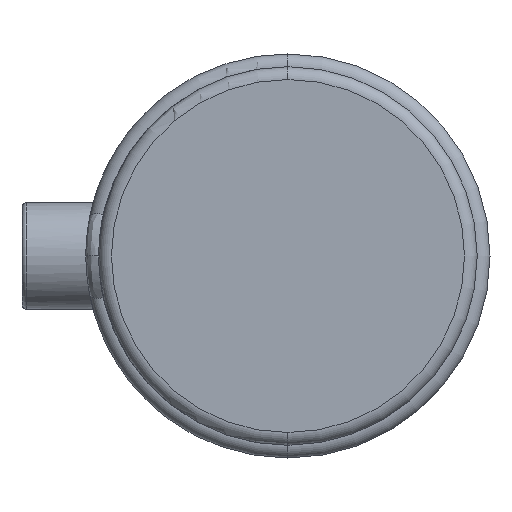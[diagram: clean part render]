
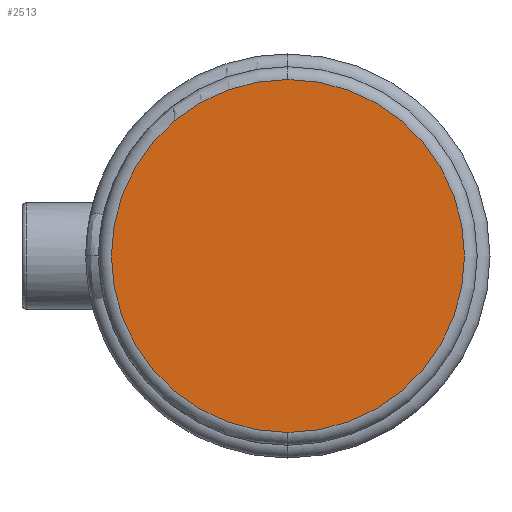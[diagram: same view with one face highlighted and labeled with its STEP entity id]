
A CAD part, left-side view. The second image highlights one B-rep face of the part: STEP entity #2513.
In plain terms, the highlighted planar face has unit normal (-1, 0, 0).
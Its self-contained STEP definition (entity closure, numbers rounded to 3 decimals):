
#125 = AXIS2_PLACEMENT_3D ( 'NONE', #492, #3700, #976 ) ;
#253 = VERTEX_POINT ( 'NONE', #2184 ) ;
#492 = CARTESIAN_POINT ( 'NONE',  ( 0., 0., 0. ) ) ;
#713 = DIRECTION ( 'NONE',  ( 0., 0., 1. ) ) ;
#976 = DIRECTION ( 'NONE',  ( 0., 0., 1. ) ) ;
#1335 = AXIS2_PLACEMENT_3D ( 'NONE', #4440, #1714, #4935 ) ;
#1618 = CARTESIAN_POINT ( 'NONE',  ( 0., 0., 0. ) ) ;
#1714 = DIRECTION ( 'NONE',  ( -1., 0., 0. ) ) ;
#1911 = CARTESIAN_POINT ( 'NONE',  ( 0., 0., -41.45 ) ) ;
#2184 = CARTESIAN_POINT ( 'NONE',  ( 0., 0., 41.45 ) ) ;
#2513 = ADVANCED_FACE ( 'NONE', ( #4640 ), #2977, .T. ) ;
#2849 = EDGE_LOOP ( 'NONE', ( #4970, #2928 ) ) ;
#2928 = ORIENTED_EDGE ( 'NONE', *, *, #3194, .T. ) ;
#2977 = PLANE ( 'NONE',  #5642 ) ;
#3194 = EDGE_CURVE ( 'NONE', #4211, #253, #5587, .T. ) ;
#3440 = DIRECTION ( 'NONE',  ( -1., 0., 0. ) ) ;
#3700 = DIRECTION ( 'NONE',  ( -1., 0., 0. ) ) ;
#4211 = VERTEX_POINT ( 'NONE', #1911 ) ;
#4440 = CARTESIAN_POINT ( 'NONE',  ( 0., 0., 0. ) ) ;
#4640 = FACE_OUTER_BOUND ( 'NONE', #2849, .T. ) ;
#4935 = DIRECTION ( 'NONE',  ( 0., 0., 1. ) ) ;
#4970 = ORIENTED_EDGE ( 'NONE', *, *, #5868, .T. ) ;
#4991 = CIRCLE ( 'NONE', #1335, 41.45 ) ;
#5587 = CIRCLE ( 'NONE', #125, 41.45 ) ;
#5642 = AXIS2_PLACEMENT_3D ( 'NONE', #1618, #3440, #713 ) ;
#5868 = EDGE_CURVE ( 'NONE', #253, #4211, #4991, .T. ) ;
